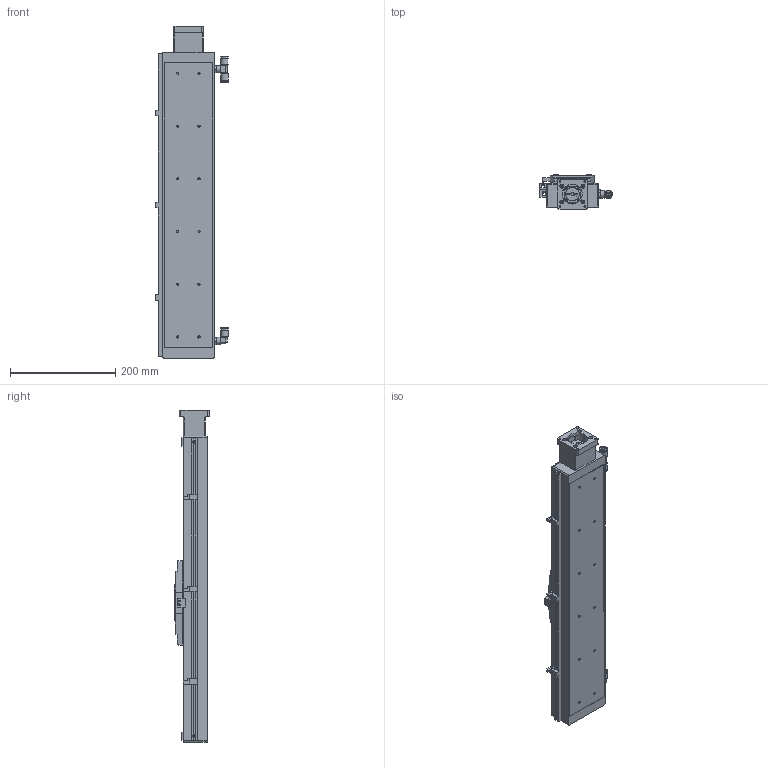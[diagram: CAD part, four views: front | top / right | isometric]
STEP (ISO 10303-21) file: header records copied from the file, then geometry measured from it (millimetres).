
FILE_DESCRIPTION((''),'2;1');
FILE_NAME('E:\libraries\UIA actuator library 2016\Clean room actuator\UIA098CR12DC\UIA098CR12 stp file 05May16\UIA098CR12DC-350-R16_ _-M23-P13-C10-S.stp','2016-05-09T14:45:02',('h029'),(''),'Autodesk Inventor 11','Autodesk Inventor 11','');
FILE_SCHEMA(('AUTOMOTIVE_DESIGN { 1 0 10303 214 1 1 1 1 }'));
Length unit declared in the file: millimetre
Products named in the file (12): UIA098CR12DC-350; body, UIA098CR12DC-350; carriage, UIA098CR12DC; Sensor Switch, UIA098CR12DC; Motor mount; SOH-25C; SOH-25C-2; SOH-25C-3; SOH-25C-1; Sensor Rail, UIA098CR12DC-350_MIR; vacuum port 1, UIA098CR12DC_MIR; vacuum port 2, UIA098CR12DC_MIR
Assembly tree (11 placements, depth 3):
  UIA098CR12DC-350
    body, UIA098CR12DC-350
    carriage, UIA098CR12DC
    Sensor Switch, UIA098CR12DC
    Motor mount
    SOH-25C
      SOH-25C-2
      SOH-25C-3
      SOH-25C-1
    Sensor Rail, UIA098CR12DC-350_MIR
    vacuum port 1, UIA098CR12DC_MIR
    vacuum port 2, UIA098CR12DC_MIR
Bounding box: 138.4 x 65.5 x 630 mm (x, y, z)
Volume: 2840754.9 mm3; surface area: 294680.1 mm2
Topology: 10 solids, 10 shells, 668 faces, 1737 edges, 1132 vertices
Faces by surface type: plane 295, bspline 284, cylinder 86, cone 3
Full cylindrical faces by diameter (mm): 3 x3, 5.6 x8, 8 x4, 9 x2, 10 x1, 13 x1, 15 x2, 18 x1, 25.5 x3, 37 x1, 38.1 x1
Entity records: 21659 total; most frequent: CARTESIAN_POINT 6364, ORIENTED_EDGE 3104, DIRECTION 2729, EDGE_CURVE 1552, VECTOR 1123, LINE 1123, VERTEX_POINT 1074, EDGE_LOOP 922
